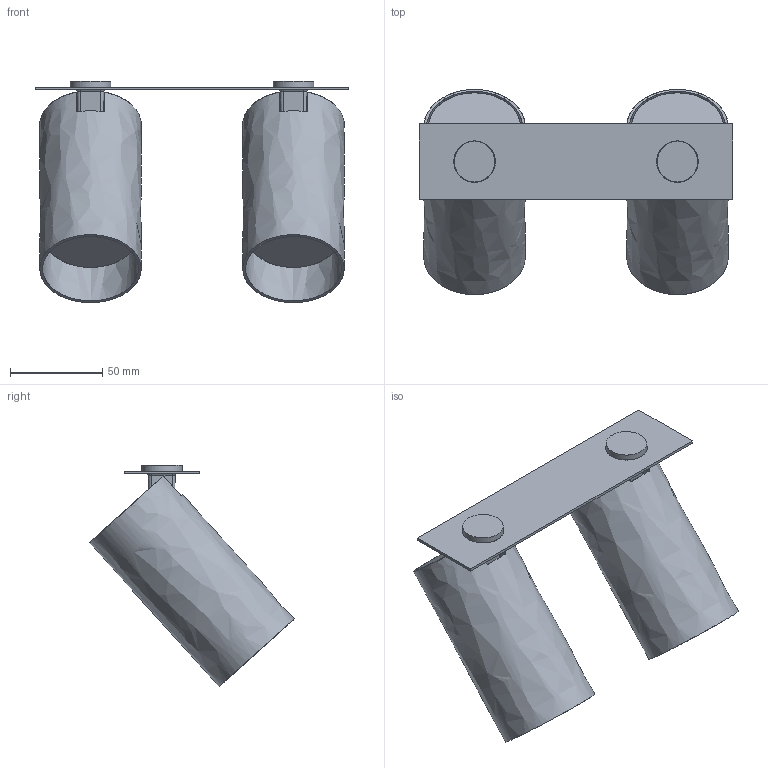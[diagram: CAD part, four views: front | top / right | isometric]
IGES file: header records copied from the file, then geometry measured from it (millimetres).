
Start section: SolidWorks IGES file using NURBS representation for surfaces
Global section: file name: Z:\Modele 3D_WWW\_KOLEKCJE_WWW\MONO\MONO-SURFACE\7828\MONO-SURFACE-II-7828.IGS; native system: SolidWorks 2021; preprocessor: SolidWorks 2021; author: gabriela.tworek; date: 220124.094944; units: millimetre
Bounding box: 170 x 111.13 x 119.94 mm (x, y, z)
Surface area: 104686.2 mm2 (no closed solid volume)
Topology: 0 solids, 0 shells, 88 faces, 546 edges, 536 vertices
Faces by surface type: bspline 88
